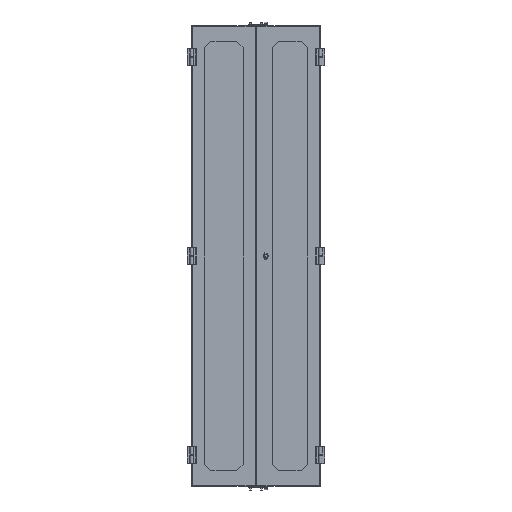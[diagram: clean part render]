
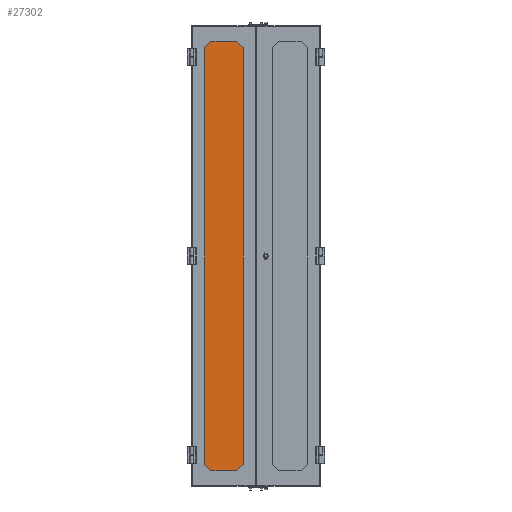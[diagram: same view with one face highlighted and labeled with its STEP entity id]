
A CAD part, front view. The second image highlights one B-rep face of the part: STEP entity #27302.
In plain terms, the highlighted planar face has unit normal (0, -1, 0).
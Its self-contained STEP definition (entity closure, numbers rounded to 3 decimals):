
#3381=ORIENTED_EDGE('',*,*,#11792,.T.);
#3382=ORIENTED_EDGE('',*,*,#11796,.T.);
#3383=ORIENTED_EDGE('',*,*,#11799,.T.);
#3384=ORIENTED_EDGE('',*,*,#11802,.T.);
#11792=EDGE_CURVE('',#16015,#16016,#19010,.T.);
#11796=EDGE_CURVE('',#16016,#16019,#19014,.T.);
#11799=EDGE_CURVE('',#16019,#16021,#19017,.T.);
#11802=EDGE_CURVE('',#16021,#16015,#19020,.T.);
#16015=VERTEX_POINT('',#40292);
#16016=VERTEX_POINT('',#40293);
#16019=VERTEX_POINT('',#40301);
#16021=VERTEX_POINT('',#40307);
#19010=LINE('',#40291,#20970);
#19014=LINE('',#40300,#20974);
#19017=LINE('',#40306,#20977);
#19020=LINE('',#40312,#20980);
#20970=VECTOR('',#33094,1000.);
#20974=VECTOR('',#33100,1000.);
#20977=VECTOR('',#33105,1000.);
#20980=VECTOR('',#33110,1000.);
#22935=EDGE_LOOP('',(#3381,#3382,#3383,#3384));
#24719=FACE_BOUND('',#22935,.T.);
#26493=PLANE('',#30416);
#27302=ADVANCED_FACE('',(#24719),#26493,.T.);
#30416=AXIS2_PLACEMENT_3D('',#40315,#33114,#33115);
#33094=DIRECTION('',(1.,0.,0.));
#33100=DIRECTION('',(0.,0.,1.));
#33105=DIRECTION('',(-1.,0.,0.));
#33110=DIRECTION('',(0.,0.,-1.));
#33114=DIRECTION('',(0.,-1.,0.));
#33115=DIRECTION('',(0.,0.,-1.));
#40291=CARTESIAN_POINT('',(90.488,0.,-880.275));
#40292=CARTESIAN_POINT('',(-90.488,0.,-880.275));
#40293=CARTESIAN_POINT('',(90.488,0.,-880.275));
#40300=CARTESIAN_POINT('',(90.488,0.,-880.275));
#40301=CARTESIAN_POINT('',(90.488,0.,880.275));
#40306=CARTESIAN_POINT('',(90.488,0.,880.275));
#40307=CARTESIAN_POINT('',(-90.488,0.,880.275));
#40312=CARTESIAN_POINT('',(-90.488,0.,880.275));
#40315=CARTESIAN_POINT('',(90.488,0.,-880.275));
